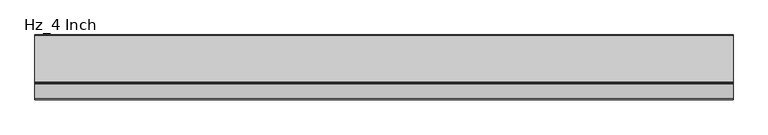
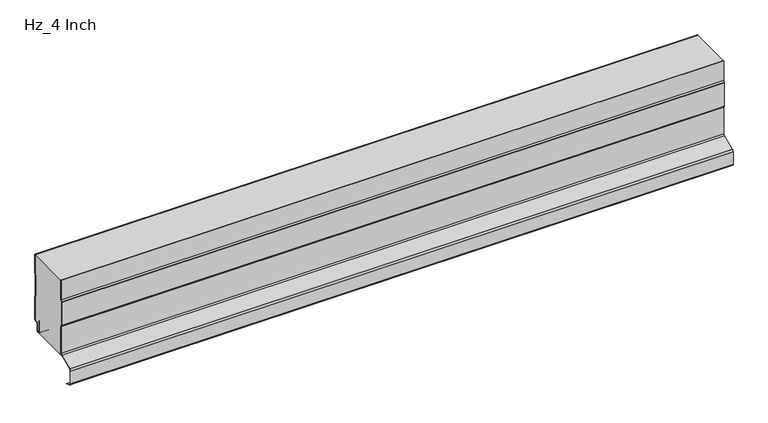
"""IFC4 building model written with IfcOpenShell, lengths in millimetres: plate geometry, AWIP_R18_CP_HR3_Hz_Roof Panel : Hz_4 Inch."""

from ifc_helpers import new_model, si_unit, point, frame, frame_2d, origin, place, context, project, spatial, polyline, circle_curve, trimmed, segment, composite_curve, outline, extrude, source, transform, mapped, element, save
from ifc_brep_helpers import plane_surface, cylinder_surface, revolved_surface, advanced_brep


def hz_4_inch_46bc6f41(model_context):
    return source(origin(), model_context, "Body", "SolidModel", [
        extrude(outline(composite_curve([segment(polyline([(-0.8, 161.5426774), (-0.8, 203.2), (0.0, 203.2), (0.0, 161.5426774)]), True, "CONTINUOUS"), segment(trimmed(circle_curve(frame_2d((-3.2, 161.5426774)), 3.2), [point((0.0, 161.5426774))], [point((-0.2624164, 160.2735823))], False, "CARTESIAN"), True, "CONTINUOUS"), segment(polyline([(-0.2624164, 160.2735823), (-1.2949872, 157.8834831)]), True, "CONTINUOUS"), segment(trimmed(circle_curve(frame_2d((1.0, 156.8920026)), 2.5), [point((-1.2949872, 157.8834831))], [point((-1.5, 156.8920026))], True, "CARTESIAN"), True, "CONTINUOUS"), segment(polyline([(-1.5, 156.8920026), (-1.5, 108.5079974)]), True, "CONTINUOUS"), segment(trimmed(circle_curve(frame_2d((1.0, 108.5079974)), 2.5), [point((-1.5, 108.5079974))], [point((-1.2949872, 107.5165169))], True, "CARTESIAN"), True, "CONTINUOUS"), segment(polyline([(-1.2949872, 107.5165169), (-0.2624164, 105.1264177)]), True, "CONTINUOUS"), segment(trimmed(circle_curve(frame_2d((-3.2, 103.8573226)), 3.2), [point((-0.2624164, 105.1264177))], [point((0.0, 103.8573226))], False, "CARTESIAN"), True, "CONTINUOUS"), segment(polyline([(0.0, 103.8573226), (0.0, 54.1)]), True, "CONTINUOUS"), segment(trimmed(circle_curve(frame_2d((-3.0, 54.1)), 3.0), [point((0.0, 54.1))], [point((-3.0, 51.1))], False, "CARTESIAN"), True, "CONTINUOUS"), segment(polyline([(-3.0, 51.1), (-5.0, 51.1)]), True, "CONTINUOUS"), segment(trimmed(circle_curve(frame_2d((-5.0, 47.1)), 4.0), [point((-5.0, 51.1))], [point((-9.0, 47.1))], True, "CARTESIAN"), True, "CONTINUOUS"), segment(polyline([(-9.0, 47.1), (-9.0, 33.5841899)]), True, "CONTINUOUS"), segment(trimmed(circle_curve(frame_2d((-12.0, 33.5841899)), 3.0), [point((-9.0, 33.5841899))], [point((-12.0, 30.5841899))], False, "CARTESIAN"), True, "CONTINUOUS"), segment(polyline([(-12.0, 30.5841899), (-14.0, 30.5841899)]), True, "CONTINUOUS"), segment(trimmed(circle_curve(frame_2d((-14.0, 33.5841899)), 3.0), [point((-14.0, 30.5841899))], [point((-17.0, 33.5841899))], False, "CARTESIAN"), True, "CONTINUOUS"), segment(polyline([(-17.0, 33.5841899), (-17.0, 59.5252318), (-16.2, 59.5252318), (-16.2, 33.5841899)]), True, "CONTINUOUS"), segment(trimmed(circle_curve(frame_2d((-14.0, 33.5841899)), 2.2), [point((-16.2, 33.5841899))], [point((-14.0, 31.3841899))], True, "CARTESIAN"), True, "CONTINUOUS"), segment(polyline([(-14.0, 31.3841899), (-12.0, 31.3841899)]), True, "CONTINUOUS"), segment(trimmed(circle_curve(frame_2d((-12.0, 33.5841899)), 2.2), [point((-12.0, 31.3841899))], [point((-9.8, 33.5841899))], True, "CARTESIAN"), True, "CONTINUOUS"), segment(polyline([(-9.8, 33.5841899), (-9.8, 47.1)]), True, "CONTINUOUS"), segment(trimmed(circle_curve(frame_2d((-5.0, 47.1)), 4.8), [point((-9.8, 47.1))], [point((-5.0, 51.9))], False, "CARTESIAN"), True, "CONTINUOUS"), segment(polyline([(-5.0, 51.9), (-3.0, 51.9)]), True, "CONTINUOUS"), segment(trimmed(circle_curve(frame_2d((-3.0, 54.1)), 2.2), [point((-3.0, 51.9))], [point((-0.8, 54.1))], True, "CARTESIAN"), True, "CONTINUOUS"), segment(polyline([(-0.8, 54.1), (-0.8, 103.8573226)]), True, "CONTINUOUS"), segment(trimmed(circle_curve(frame_2d((-3.2, 103.8573226)), 2.4), [point((-0.8, 103.8573226))], [point((-0.9968123, 104.8091439))], True, "CARTESIAN"), True, "CONTINUOUS"), segment(polyline([(-0.9968123, 104.8091439), (-2.0293831, 107.1992431)]), True, "CONTINUOUS"), segment(trimmed(circle_curve(frame_2d((1.0, 108.5079974)), 3.3), [point((-2.0293831, 107.1992431))], [point((-2.3, 108.5079974))], False, "CARTESIAN"), True, "CONTINUOUS"), segment(polyline([(-2.3, 108.5079974), (-2.3, 156.8920026)]), True, "CONTINUOUS"), segment(trimmed(circle_curve(frame_2d((1.0, 156.8920026)), 3.3), [point((-2.3, 156.8920026))], [point((-2.0293831, 158.2007569))], False, "CARTESIAN"), True, "CONTINUOUS"), segment(polyline([(-2.0293831, 158.2007569), (-0.9968123, 160.5908561)]), True, "CONTINUOUS"), segment(trimmed(circle_curve(frame_2d((-3.2, 161.5426774)), 2.4), [point((-0.9968123, 160.5908561))], [point((-0.8, 161.5426774))], True, "CARTESIAN"), True, "CONTINUOUS")], self_intersect=False)), frame((-723.9042608, 0.0, 0.0), z_axis=(1.0, 0.0, 0.0), x_axis=(0.0, 1.0, 0.0)), (0.0, 0.0, 1.0), 1447.8085217),
        extrude(outline(composite_curve([segment(trimmed(circle_curve(frame_2d((-99.3158802, 96.0266872)), 1.3), [point((-98.2621793, 96.788077))], [point((-98.0158802, 96.0266872))], False, "CARTESIAN"), True, "CONTINUOUS"), segment(polyline([(-98.0158802, 96.0266872), (-98.0158802, 35.2427703)]), True, "CONTINUOUS"), segment(trimmed(circle_curve(frame_2d((-102.8158801, 35.2427703)), 4.7999999), [point((-98.0158802, 35.2427703))], [point((-100.940401, 30.8243343))], False, "CARTESIAN"), True, "CONTINUOUS"), segment(polyline([(-100.940401, 30.8243343), (-130.9569246, 18.0833189)]), True, "CONTINUOUS"), segment(trimmed(circle_curve(frame_2d((-129.3158804, 14.2171873)), 4.2), [point((-130.9569246, 18.0833189))], [point((-133.5158804, 14.2171873))], True, "CARTESIAN"), True, "CONTINUOUS"), segment(polyline([(-133.5158804, 14.2171873), (-133.5158804, -14.1639048)]), True, "CONTINUOUS"), segment(trimmed(circle_curve(frame_2d((-129.3158804, -14.1639048)), 4.2), [point((-133.5158804, -14.1639048))], [point((-130.9569214, -18.0300378))], True, "CARTESIAN"), True, "CONTINUOUS"), segment(polyline([(-130.9569214, -18.0300378), (-118.354669, -23.3792623), (-118.6672482, -24.1156686), (-131.2695006, -18.7664441)]), True, "CONTINUOUS"), segment(trimmed(circle_curve(frame_2d((-129.3158804, -14.1639048)), 5.0), [point((-131.2695006, -18.7664441))], [point((-134.3158804, -14.1639048))], False, "CARTESIAN"), True, "CONTINUOUS"), segment(polyline([(-134.3158804, -14.1639048), (-134.3158804, 14.2171873)]), True, "CONTINUOUS"), segment(trimmed(circle_curve(frame_2d((-129.3158804, 14.2171873)), 5.0), [point((-134.3158804, 14.2171873))], [point((-131.2695045, 18.8197249))], False, "CARTESIAN"), True, "CONTINUOUS"), segment(polyline([(-131.2695045, 18.8197249), (-101.2529809, 31.5607405)]), True, "CONTINUOUS"), segment(trimmed(circle_curve(frame_2d((-102.8158801, 35.2427703)), 3.9999997), [point((-101.2529809, 31.5607405))], [point((-98.8158804, 35.2427703))], True, "CARTESIAN"), True, "CONTINUOUS"), segment(polyline([(-98.8158804, 35.2427703), (-98.8158804, 96.1884306), (-101.3158081, 99.6481249)]), True, "CONTINUOUS"), segment(trimmed(circle_curve(frame_2d((-100.0999994, 100.5266516)), 1.4999999), [point((-101.3158081, 99.6481249))], [point((-101.5999994, 100.5266516))], False, "CARTESIAN"), True, "CONTINUOUS"), segment(polyline([(-101.5999994, 100.5266516), (-101.5999994, 154.2756802)]), True, "CONTINUOUS"), segment(trimmed(circle_curve(frame_2d((-100.0999997, 154.2766516)), 1.5), [point((-101.5999994, 154.2756802))], [point((-101.3158084, 155.1551783))], False, "CARTESIAN"), True, "CONTINUOUS"), segment(polyline([(-101.3158084, 155.1551783), (-98.8158803, 158.6148732), (-98.8158803, 203.2), (-98.0158802, 203.2), (-98.0158802, 158.7766163)]), True, "CONTINUOUS"), segment(trimmed(circle_curve(frame_2d((-99.3158802, 158.7766163)), 1.3), [point((-98.0158802, 158.7766163))], [point((-98.2621793, 158.0152264))], False, "CARTESIAN"), True, "CONTINUOUS"), segment(polyline([(-98.2621793, 158.0152264), (-100.7999997, 154.5030919), (-100.7999997, 100.3002117), (-98.2621793, 96.788077)]), True, "CONTINUOUS")], self_intersect=False)), frame((-723.9042608, 0.0, 0.0), z_axis=(1.0, 0.0, 0.0), x_axis=(0.0, 1.0, 0.0)), (0.0, 0.0, 1.0), 1447.8085217),
        advanced_brep(
        [(-723.9042608, -98.0158805, 35.2427703), (-723.9042608, -98.0158805, 96.0266872), (-723.9042608, -98.2621797, 96.788077), (-723.9042608, -100.8, 100.3002117), (-723.9042608, -100.8, 154.5030919), (-723.9042608, -98.2621797, 158.0152264), (-723.9042608, -98.0158805, 158.7766163), (-723.9042608, -98.0158805, 203.2), (-723.9042608, -0.8, 203.2), (-723.9042608, -0.8, 161.5426774), (-723.9042608, -0.9968123, 160.5908561), (-723.9042608, -2.0293831, 158.2007569), (-723.9042608, -2.3, 156.8920026), (-723.9042608, -2.3, 108.5079974), (-723.9042608, -2.0293831, 107.1992431), (-723.9042608, -0.9968123, 104.8091439), (-723.9042608, -0.8, 103.8573226), (-723.9042608, -0.8, 54.1), (-723.9042608, -3.0, 51.9), (-723.9042608, -5.0, 51.9), (-723.9042608, -9.8, 47.1), (-723.9042608, -9.8, 33.5841899), (-723.9042608, -12.0, 31.3841899), (-723.9042608, -14.0, 31.3841899), (-723.9042608, -16.2, 33.5841899), (-723.9042608, -16.2, 59.5252318), (-723.9042608, -17.0, 59.5252318), (-723.9042608, -17.0, 33.5841899), (-723.9042608, -14.0, 30.5841899), (-723.9042608, -101.7298575, 30.5672433), (723.9042608, -98.0158805, 35.2427703), (723.9042608, -101.7298575, 30.5672433), (723.9042608, -14.0, 30.5672433), (723.9042608, -17.0, 33.5841899), (723.9042608, -17.0, 59.5252318), (723.9042608, -16.2, 59.5252318), (723.9042608, -16.2, 33.5841899), (723.9042608, -14.0, 31.3841899), (723.9042608, -12.0, 31.3841899), (723.9042608, -9.8, 33.5841899), (723.9042608, -9.8, 47.1), (723.9042608, -5.0, 51.9), (723.9042608, -3.0, 51.9), (723.9042608, -0.8, 54.1), (723.9042608, -0.8, 103.8573226), (723.9042608, -0.9968123, 104.8091439), (723.9042608, -2.0293831, 107.1992431), (723.9042608, -2.3, 108.5079974), (723.9042608, -2.3, 156.8920026), (723.9042608, -2.0293831, 158.2007569), (723.9042608, -0.9968123, 160.5908561), (723.9042608, -0.8, 161.5426774), (723.9042608, -0.8, 203.2), (723.9042608, -98.0158805, 203.2), (723.9042608, -98.0158805, 158.7766163), (723.9042608, -98.2621797, 158.0152264), (723.9042608, -100.8, 154.5030919), (723.9042608, -100.8, 100.3002117), (723.9042608, -98.2621797, 96.788077), (723.9042608, -98.0158805, 96.0266872)],
        [
            (0, 1),
            (1, 2, circle_curve(frame((-723.9042608, -99.3158805, 96.0266872), z_axis=(1.0, 0.0, 0.0), x_axis=(0.0, -1.0, 0.0)), 1.3)),
            (2, 3),
            (3, 4),
            (4, 5),
            (5, 6, circle_curve(frame((-723.9042608, -99.3158805, 158.7766163), z_axis=(1.0, 0.0, 0.0), x_axis=(0.0, -1.0, 0.0)), 1.3)),
            (6, 7),
            (7, 8),
            (8, 9),
            (9, 10, circle_curve(frame((-723.9042608, -3.2, 161.5426774), z_axis=(-1.0, 0.0, 0.0), x_axis=(0.0, -1.0, 0.0)), 2.4)),
            (10, 11),
            (11, 12, circle_curve(frame((-723.9042608, 1.0, 156.8920026), z_axis=(1.0, 0.0, 0.0), x_axis=(0.0, -1.0, 0.0)), 3.3)),
            (12, 13),
            (13, 14, circle_curve(frame((-723.9042608, 1.0, 108.5079974), z_axis=(1.0, 0.0, 0.0), x_axis=(0.0, -1.0, 0.0)), 3.3)),
            (14, 15),
            (15, 16, circle_curve(frame((-723.9042608, -3.2, 103.8573226), z_axis=(-1.0, 0.0, 0.0), x_axis=(0.0, -1.0, 0.0)), 2.4)),
            (16, 17),
            (17, 18, circle_curve(frame((-723.9042608, -3.0, 54.1), z_axis=(-1.0, 0.0, 0.0), x_axis=(0.0, -1.0, 0.0)), 2.2)),
            (18, 19),
            (19, 20, circle_curve(frame((-723.9042608, -5.0, 47.1), z_axis=(1.0, 0.0, 0.0), x_axis=(0.0, -1.0, 0.0)), 4.8)),
            (20, 21),
            (21, 22, circle_curve(frame((-723.9042608, -12.0, 33.5841899), z_axis=(-1.0, 0.0, 0.0), x_axis=(0.0, -1.0, 0.0)), 2.2)),
            (22, 23),
            (23, 24, circle_curve(frame((-723.9042608, -14.0, 33.5841899), z_axis=(-1.0, 0.0, 0.0), x_axis=(0.0, -1.0, 0.0)), 2.2)),
            (24, 25),
            (25, 26),
            (26, 27),
            (27, 28, circle_curve(frame((-723.9042608, -14.0, 33.5841899), z_axis=(1.0, 0.0, 0.0), x_axis=(0.0, -1.0, 0.0)), 3.0)),
            (28, 29),
            (29, 0, circle_curve(frame((-723.9042608, -102.8158804, 35.2427703), z_axis=(1.0, 0.0, 0.0), x_axis=(0.0, -1.0, 0.0)), 4.7999999)),
            (30, 31, circle_curve(frame((723.9042608, -102.8158804, 35.2427703), z_axis=(-1.0, 0.0, 0.0), x_axis=(0.0, -1.0, 0.0)), 4.7999999)),
            (31, 32),
            (32, 33, circle_curve(frame((723.9042608, -14.0, 33.5841899), z_axis=(-1.0, 0.0, 0.0), x_axis=(0.0, -1.0, 0.0)), 3.0)),
            (33, 34),
            (34, 35),
            (35, 36),
            (36, 37, circle_curve(frame((723.9042608, -14.0, 33.5841899), z_axis=(1.0, 0.0, 0.0), x_axis=(0.0, -1.0, 0.0)), 2.2)),
            (37, 38),
            (38, 39, circle_curve(frame((723.9042608, -12.0, 33.5841899), z_axis=(1.0, 0.0, 0.0), x_axis=(0.0, -1.0, 0.0)), 2.2)),
            (39, 40),
            (40, 41, circle_curve(frame((723.9042608, -5.0, 47.1), z_axis=(-1.0, 0.0, 0.0), x_axis=(0.0, -1.0, 0.0)), 4.8)),
            (41, 42),
            (42, 43, circle_curve(frame((723.9042608, -3.0, 54.1), z_axis=(1.0, 0.0, 0.0), x_axis=(0.0, -1.0, 0.0)), 2.2)),
            (43, 44),
            (44, 45, circle_curve(frame((723.9042608, -3.2, 103.8573226), z_axis=(1.0, 0.0, 0.0), x_axis=(0.0, -1.0, 0.0)), 2.4)),
            (45, 46),
            (46, 47, circle_curve(frame((723.9042608, 1.0, 108.5079974), z_axis=(-1.0, 0.0, 0.0), x_axis=(0.0, -1.0, 0.0)), 3.3)),
            (47, 48),
            (48, 49, circle_curve(frame((723.9042608, 1.0, 156.8920026), z_axis=(-1.0, 0.0, 0.0), x_axis=(0.0, -1.0, 0.0)), 3.3)),
            (49, 50),
            (50, 51, circle_curve(frame((723.9042608, -3.2, 161.5426774), z_axis=(1.0, 0.0, 0.0), x_axis=(0.0, -1.0, 0.0)), 2.4)),
            (51, 52),
            (52, 53),
            (53, 54),
            (54, 55, circle_curve(frame((723.9042608, -99.3158805, 158.7766163), z_axis=(-1.0, 0.0, 0.0), x_axis=(0.0, -1.0, 0.0)), 1.3)),
            (55, 56),
            (56, 57),
            (57, 58),
            (58, 59, circle_curve(frame((723.9042608, -99.3158805, 96.0266872), z_axis=(-1.0, 0.0, 0.0), x_axis=(0.0, -1.0, 0.0)), 1.3)),
            (59, 30),
            (7, 53),
            (52, 8),
            (29, 31),
            (30, 0),
            (28, 32),
            (27, 33),
            (26, 34),
            (25, 35),
            (24, 36),
            (23, 37),
            (22, 38),
            (21, 39),
            (20, 40),
            (19, 41),
            (18, 42),
            (17, 43),
            (16, 44),
            (15, 45),
            (14, 46),
            (13, 47),
            (12, 48),
            (11, 49),
            (10, 50),
            (9, 51),
            (6, 54),
            (5, 55),
            (4, 56),
            (3, 57),
            (2, 58),
            (1, 59),
        ],
        [
            plane_surface(frame((-723.9042608, -0.8, 508.0), z_axis=(-1.0, 0.0, 0.0), x_axis=(0.0, -1.0, 0.0))),
            plane_surface(frame((723.9042608, -0.8, 508.0), z_axis=(1.0, 0.0, 0.0), x_axis=(0.0, -1.0, 0.0))),
            plane_surface(frame((723.9042608, 5.0, 203.2), z_axis=(0.0, 0.0, 1.0), x_axis=(-1.0, 0.0, 0.0))),
            revolved_surface(polyline([(723.9042608, -107.6158803, 35.2427703), (-723.9042608, -107.6158803, 35.2427703)]), (-723.9042608, -102.8158804, 35.2427703), (1.0, 0.0, 0.0)),
            plane_surface(frame((-723.9042608, -101.7298575, 30.5672433), z_axis=(0.0, 0.0, -1.0), x_axis=(1.0, 0.0, 0.0))),
            revolved_surface(polyline([(723.9042608, -17.0, 33.5841899), (-723.9042608, -17.0, 33.5841899)]), (-723.9042608, -14.0, 33.5841899), (1.0, 0.0, 0.0)),
            plane_surface(frame((-723.9042608, -17.0, 33.5841899), z_axis=(0.0, 1.0, 0.0), x_axis=(1.0, 0.0, 0.0))),
            plane_surface(frame((-723.9042608, -17.0, 59.5252318), z_axis=(0.0, 0.0, -1.0), x_axis=(1.0, 0.0, 0.0))),
            plane_surface(frame((-723.9042608, -16.2, 59.5252318), z_axis=(0.0, -1.0, 0.0), x_axis=(1.0, 0.0, 0.0))),
            cylinder_surface(frame((-723.9042608, -14.0, 33.5841899), z_axis=(-1.0, 0.0, 0.0), x_axis=(0.0, -1.0, 0.0)), 2.2),
            plane_surface(frame((-723.9042608, -14.0, 31.3841899), z_axis=(0.0, 0.0, -1.0), x_axis=(1.0, 0.0, 0.0))),
            cylinder_surface(frame((-723.9042608, -12.0, 33.5841899), z_axis=(-1.0, 0.0, 0.0), x_axis=(0.0, -1.0, 0.0)), 2.2),
            plane_surface(frame((-723.9042608, -9.8, 33.5841899), z_axis=(0.0, 1.0, 0.0), x_axis=(1.0, 0.0, 0.0))),
            revolved_surface(polyline([(723.9042608, -9.8, 47.1), (-723.9042608, -9.8, 47.1)]), (-723.9042608, -5.0, 47.1), (1.0, 0.0, 0.0)),
            plane_surface(frame((-723.9042608, -5.0, 51.9), z_axis=(0.0, 0.0, -1.0), x_axis=(1.0, 0.0, 0.0))),
            cylinder_surface(frame((-723.9042608, -3.0, 54.1), z_axis=(-1.0, 0.0, 0.0), x_axis=(0.0, -1.0, 0.0)), 2.2),
            plane_surface(frame((-723.9042608, -0.8, 54.1), z_axis=(0.0, 1.0, 0.0), x_axis=(1.0, 0.0, 0.0))),
            cylinder_surface(frame((-723.9042608, -3.2, 103.8573226), z_axis=(-1.0, 0.0, 0.0), x_axis=(0.0, -1.0, 0.0)), 2.4),
            plane_surface(frame((-723.9042608, -0.9968123, 104.8091439), z_axis=(0.0, 0.9179948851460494, 0.3965922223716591), x_axis=(1.0, 0.0, 0.0))),
            revolved_surface(polyline([(723.9042608, -2.3, 108.5079974), (-723.9042608, -2.3, 108.5079974)]), (-723.9042608, 1.0, 108.5079974), (1.0, 0.0, 0.0)),
            plane_surface(frame((-723.9042608, -2.3, 108.5079974), z_axis=(0.0, 1.0, 0.0), x_axis=(1.0, 0.0, 0.0))),
            revolved_surface(polyline([(723.9042608, -2.3, 156.8920026), (-723.9042608, -2.3, 156.8920026)]), (-723.9042608, 1.0, 156.8920026), (1.0, 0.0, 0.0)),
            plane_surface(frame((-723.9042608, -2.0293831, 158.2007569), z_axis=(0.0, 0.9179948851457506, -0.39659222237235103), x_axis=(1.0, 0.0, 0.0))),
            cylinder_surface(frame((-723.9042608, -3.2, 161.5426774), z_axis=(-1.0, 0.0, 0.0), x_axis=(0.0, -1.0, 0.0)), 2.4),
            plane_surface(frame((-723.9042608, -0.8, 161.5426774), z_axis=(0.0, 1.0, 0.0), x_axis=(1.0, 0.0, 0.0))),
            plane_surface(frame((-723.9042608, -98.0158805, 219.2727425), z_axis=(0.0, -1.0, 0.0), x_axis=(1.0, 0.0, 0.0))),
            revolved_surface(polyline([(723.9042608, -100.6158805, 158.7766163), (-723.9042608, -100.6158805, 158.7766163)]), (-723.9042608, -99.3158805, 158.7766163), (1.0, 0.0, 0.0)),
            plane_surface(frame((-723.9042608, -98.2621797, 158.0152264), z_axis=(0.0, -0.8105391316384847, 0.585684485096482), x_axis=(1.0, 0.0, 0.0))),
            plane_surface(frame((-723.9042608, -100.8, 154.5030919), z_axis=(0.0, -1.0, 0.0), x_axis=(1.0, 0.0, 0.0))),
            plane_surface(frame((-723.9042608, -100.8, 100.3002117), z_axis=(0.0, -0.8105391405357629, -0.5856844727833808), x_axis=(1.0, 0.0, 0.0))),
            revolved_surface(polyline([(723.9042608, -100.6158805, 96.0266872), (-723.9042608, -100.6158805, 96.0266872)]), (-723.9042608, -99.3158805, 96.0266872), (1.0, 0.0, 0.0)),
            plane_surface(frame((-723.9042608, -98.0158805, 96.0266872), z_axis=(0.0, -1.0, 0.0), x_axis=(1.0, 0.0, 0.0))),
        ],
        [
            (0, [[1, 2, 3, 4, 5, 6, 7, 8, 9, 10, 11, 12, 13, 14, 15, 16, 17, 18, 19, 20, 21, 22, 23, 24, 25, 26, 27, 28, 29, 30]]),
            (1, [[31, 32, 33, 34, 35, 36, 37, 38, 39, 40, 41, 42, 43, 44, 45, 46, 47, 48, 49, 50, 51, 52, 53, 54, 55, 56, 57, 58, 59, 60]]),
            (2, [[61, -53, 62, -8]]),
            (3, [[63, -31, 64, -30]]),
            (4, [[65, -32, -63, -29]]),
            (5, [[66, -33, -65, -28]]),
            (6, [[67, -34, -66, -27]]),
            (7, [[68, -35, -67, -26]]),
            (8, [[69, -36, -68, -25]]),
            (9, [[70, -37, -69, -24]]),
            (10, [[71, -38, -70, -23]]),
            (11, [[72, -39, -71, -22]]),
            (12, [[73, -40, -72, -21]]),
            (13, [[74, -41, -73, -20]]),
            (14, [[75, -42, -74, -19]]),
            (15, [[76, -43, -75, -18]]),
            (16, [[77, -44, -76, -17]]),
            (17, [[78, -45, -77, -16]]),
            (18, [[79, -46, -78, -15]]),
            (19, [[80, -47, -79, -14]]),
            (20, [[81, -48, -80, -13]]),
            (21, [[82, -49, -81, -12]]),
            (22, [[83, -50, -82, -11]]),
            (23, [[84, -51, -83, -10]]),
            (24, [[-9, -62, -52, -84]]),
            (25, [[-54, -61, -7, 85]]),
            (26, [[86, -55, -85, -6]]),
            (27, [[87, -56, -86, -5]]),
            (28, [[88, -57, -87, -4]]),
            (29, [[89, -58, -88, -3]]),
            (30, [[90, -59, -89, -2]]),
            (31, [[-64, -60, -90, -1]]),
        ],
    ),
    ])


if __name__ == "__main__":
    model = new_model("IFC4")
    model_context = context("Model", 3, world=origin())
    ifc_project = project(units=[si_unit("LENGTHUNIT", "METRE", prefix="MILLI")], contexts=[model_context])
    site = spatial("IfcSite", under=ifc_project)
    building = spatial("IfcBuilding", under=site)
    placement = place(None, origin())
    hz_4_inch_shape = hz_4_inch_46bc6f41(model_context)
    element("IfcPlate", 1, ObjectType="AWIP_R18_CP_HR3_Hz_Roof Panel : Hz_4 Inch", at=placement, inside=building, context=model_context, shape_type="MappedRepresentation", body=[
        mapped(hz_4_inch_shape, transform((0.0, 0.0, 0.0), x_axis=(1.0, 0.0, 0.0), y_axis=(0.0, 1.0, 0.0), z_axis=(0.0, 0.0, 1.0))),
    ])
    save(model, "model.ifc")
